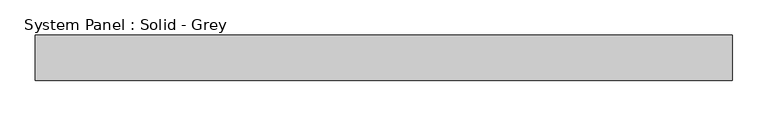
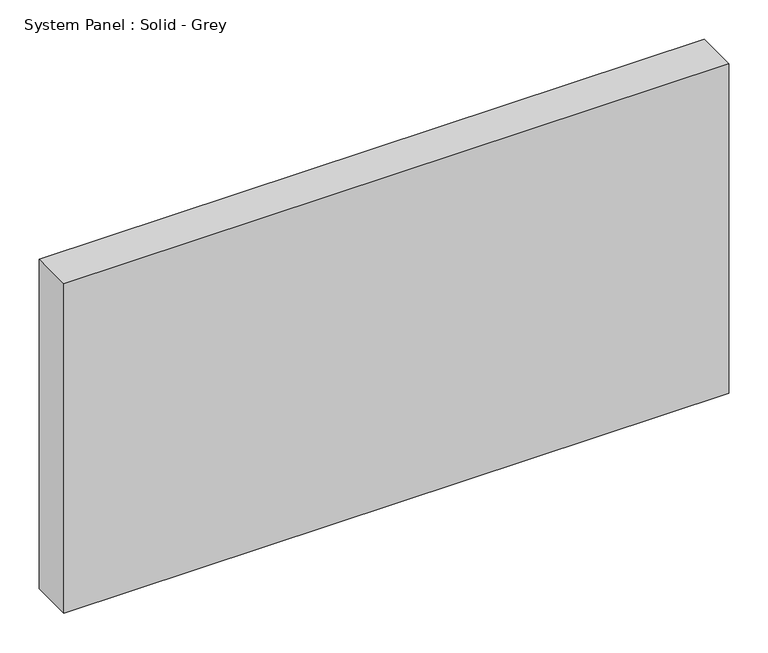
"""IFC4 building model written with IfcOpenShell, lengths in millimetres: plate geometry, System Panel : Solid - Grey."""

from ifc_helpers import new_model, si_unit, origin, origin_with_axes, place, context, project, spatial, polyline, outline, extrude, source, transform, mapped, element, save


def system_panel_solid_grey_7d6e94b4(model_context):
    return source(origin(), model_context, "Body", "SweptSolid", [
        extrude(outline(polyline([(490.9910714, -19.05), (-490.9910714, -19.05), (-490.9910714, 44.45), (490.9910714, 44.45), (490.9910714, -19.05)])), origin_with_axes(), (0.0, 0.0, 1.0), 514.35),
    ])


if __name__ == "__main__":
    model = new_model("IFC4")
    model_context = context("Model", 3, world=origin())
    ifc_project = project(units=[si_unit("LENGTHUNIT", "METRE", prefix="MILLI")], contexts=[model_context])
    site = spatial("IfcSite", under=ifc_project)
    building = spatial("IfcBuilding", under=site)
    placement = place(None, origin())
    system_panel_solid_grey_shape = system_panel_solid_grey_7d6e94b4(model_context)
    element("IfcPlate", 1, ObjectType="System Panel : Solid - Grey", at=placement, inside=building, context=model_context, shape_type="MappedRepresentation", body=[
        mapped(system_panel_solid_grey_shape, transform((0.0, 0.0, 0.0), x_axis=(1.0, 0.0, 0.0), y_axis=(0.0, 1.0, 0.0), z_axis=(0.0, 0.0, 1.0))),
    ])
    save(model, "model.ifc")
